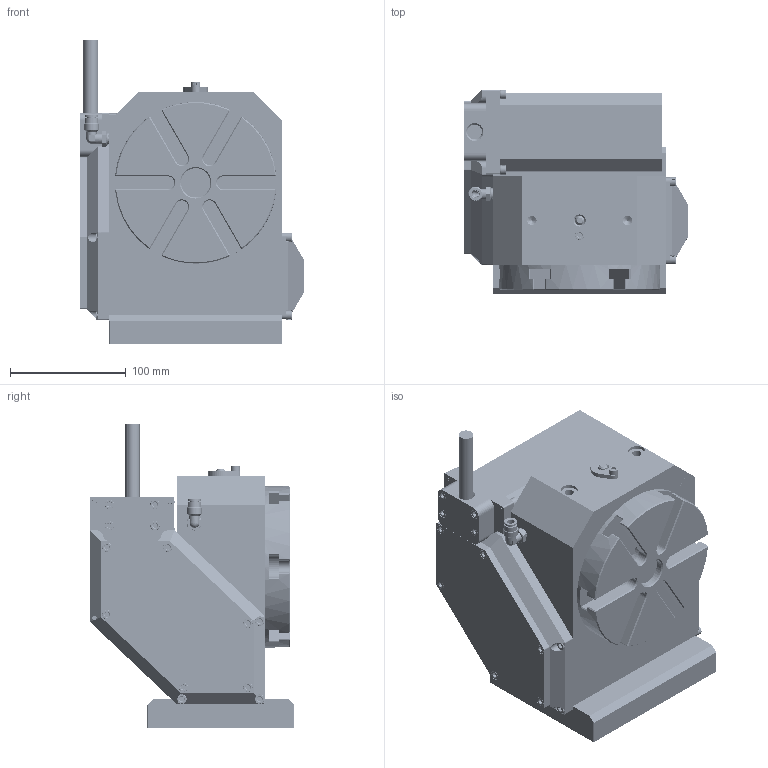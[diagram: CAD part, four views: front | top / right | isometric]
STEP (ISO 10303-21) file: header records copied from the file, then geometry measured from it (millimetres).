
FILE_DESCRIPTION(/* description */ ('','CAx-IF Rec.Pracs.---Representation and Presentation of Product Manufacturing Information (PMI)---4.0---2014-10-13'),/* implementation_level */ '2;1');
FILE_NAME(/* name */ 'VH-140 v3.step',/* time_stamp */ '2025-03-03T14:08:01-08:00',/* author */ (''),/* organization */ (''),/* preprocessor_version */ 'ST-DEVELOPER v20',/* originating_system */ 'Autodesk Translation Framework v13.20.0.188',/* authorisation */ '');
FILE_SCHEMA (('AP242_MANAGED_MODEL_BASED_3D_ENGINEERING_MIM_LF { 1 0 10303 442 1 1 4 }'));
Products named in the file (35): VH-140; VH160RH1; VH160RH1_1; 31023004 - 31023004A; 31023004 - 31023004A_1; Back Plate; Component2; 91251A537_Black-Oxide Alloy Steel Socket Head Screw; Motor Mount High; Component2_1; Pully Cover High; Component2_2; Cable Block 2; Component1; Component2_3; 91251A342_Black-Oxide Alloy Steel Socket Head Screw; 91251A342_Black-Oxide Alloy Steel Socket Head Screw_1; 91251A342_Black-Oxide Alloy Steel Socket Head Screw_2; 91251A342_Black-Oxide Alloy Steel Socket Head Screw_3; Cover; Component2_4; Low-Pressure 302 Stainless Steel Plug with Hex Drive, 1/8 NPTF; 4464K561; UPSP1; Component2_5; Component3; 9452K16_Oil-Resistant Buna-N O-Ring; 91251A342_Black-Oxide Alloy Steel Socket Head Screw_4; Side Cover; Component1_1; 91251A342_Black-Oxide Alloy Steel Socket Head Screw_5; 91251A342_Black-Oxide Alloy Steel Socket Head Screw_6; 91251A342_Black-Oxide Alloy Steel Socket Head Screw_7; 91251A342_Black-Oxide Alloy Steel Socket Head Screw_8; 51495K214_Nickel-Plated Brass Push-to-Connect Tube Fitting
Assembly tree (57 placements, depth 3):
  VH-140
    VH160RH1
      VH160RH1_1
    31023004 - 31023004A
      31023004 - 31023004A_1
    Back Plate
      Component2
      91251A342_Black-Oxide Alloy Steel Socket Head Screw_4  x6
      91251A537_Black-Oxide Alloy Steel Socket Head Screw  x4
    Motor Mount High
      Component2_1
      91251A342_Black-Oxide Alloy Steel Socket Head Screw_4  x4
    Pully Cover High
      Component2_2
      91251A342_Black-Oxide Alloy Steel Socket Head Screw_4  x6
    Cable Block 2
      Component1
      Component2_3
      91251A342_Black-Oxide Alloy Steel Socket Head Screw
      91251A342_Black-Oxide Alloy Steel Socket Head Screw_1
      91251A342_Black-Oxide Alloy Steel Socket Head Screw_2
      91251A342_Black-Oxide Alloy Steel Socket Head Screw_3
    Cover
      Component2_4
      91251A342_Black-Oxide Alloy Steel Socket Head Screw_4  x4
    Low-Pressure 302 Stainless Steel Plug with Hex Drive, 1/8 NPTF
      4464K561
    UPSP1
      Component2_5
      Component3
      9452K16_Oil-Resistant Buna-N O-Ring
      91251A342_Black-Oxide Alloy Steel Socket Head Screw_4
    Side Cover
      Component1_1
      91251A342_Black-Oxide Alloy Steel Socket Head Screw_5
      91251A342_Black-Oxide Alloy Steel Socket Head Screw_6
      91251A342_Black-Oxide Alloy Steel Socket Head Screw_7
      91251A342_Black-Oxide Alloy Steel Socket Head Screw_8
    51495K214_Nickel-Plated Brass Push-to-Connect Tube Fitting
Bounding box: 194.31 x 176.69 x 263.52 mm (x, y, z)
Volume: 3431144.5 mm3; surface area: 480821.2 mm2
Topology: 50 solids, 50 shells, 12708 faces, 32360 edges, 21518 vertices
Faces by surface type: plane 7234, cone 3464, cylinder 1930, torus 69, bspline 9, sphere 2
Full cylindrical faces by diameter (mm): 3.795 x29, 4 x2, 4.064 x23, 4.7 x4, 4.762 x1, 5.105 x22, 5.309 x2, 5.334 x6, 5.397 x1, 5.842 x1, 6.35 x2, 6.528 x4, 7.376 x1, 7.62 x2, 7.938 x30, 7.95 x2, 7.976 x2, 8.255 x6, 8.331 x14, 8.5 x2, 8.526 x4, 8.89 x1, 8.9 x2, 9.065 x1, 9.525 x4, 9.881 x4, 9.9 x2, 11.192 x1, 11.7 x1, 12.649 x1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
Entity records: 147079 total; most frequent: CARTESIAN_POINT 38938, DIRECTION 23059, ORIENTED_EDGE 21710, EDGE_CURVE 10855, AXIS2_PLACEMENT_3D 8033, VERTEX_POINT 7212, LINE 6993, VECTOR 6993
